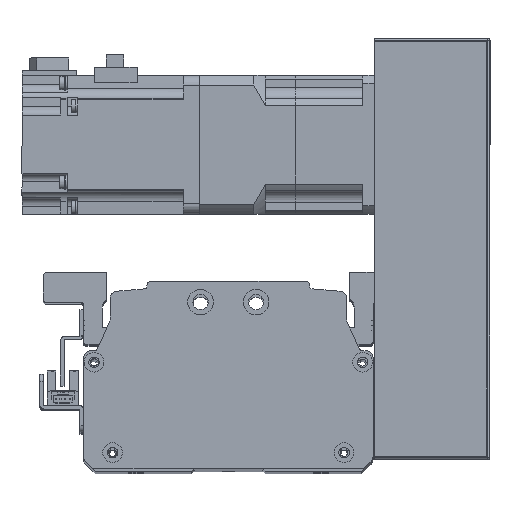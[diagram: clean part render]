
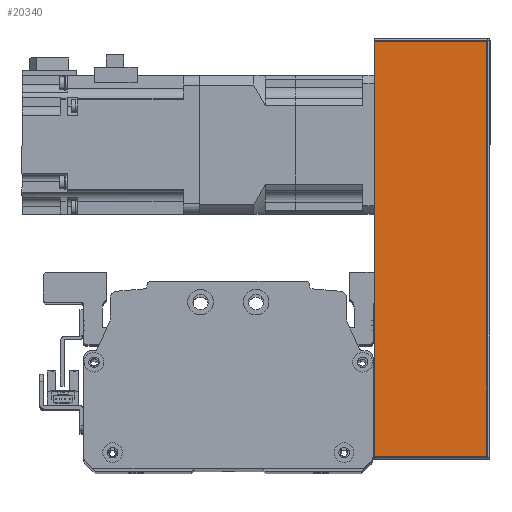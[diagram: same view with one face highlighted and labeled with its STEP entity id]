
A CAD part, top view. The second image highlights one B-rep face of the part: STEP entity #20340.
In plain terms, the highlighted planar face has unit normal (0, 0, 1) as drawn and (0, -1, 0) by its records, which use the part's own axes.
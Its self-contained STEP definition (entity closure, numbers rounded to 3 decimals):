
#563=PLANE('',#22303);
#1778=LINE('',#33132,#3402);
#1792=LINE('',#33184,#3416);
#1794=LINE('',#33192,#3418);
#1795=LINE('',#33194,#3419);
#3402=VECTOR('',#26905,10.);
#3416=VECTOR('',#26965,10.);
#3418=VECTOR('',#26979,10.);
#3419=VECTOR('',#26982,10.);
#5750=FACE_OUTER_BOUND('',#7174,.T.);
#7174=EDGE_LOOP('',(#16922,#16923,#16924,#16925));
#10010=VERTEX_POINT('',#33129);
#10011=VERTEX_POINT('',#33131);
#10025=VERTEX_POINT('',#33179);
#10026=VERTEX_POINT('',#33182);
#12438=EDGE_CURVE('',#10011,#10010,#1778,.T.);
#12466=EDGE_CURVE('',#10025,#10026,#1792,.T.);
#12470=EDGE_CURVE('',#10026,#10011,#1794,.T.);
#12471=EDGE_CURVE('',#10010,#10025,#1795,.T.);
#16922=ORIENTED_EDGE('',*,*,#12466,.T.);
#16923=ORIENTED_EDGE('',*,*,#12470,.T.);
#16924=ORIENTED_EDGE('',*,*,#12438,.T.);
#16925=ORIENTED_EDGE('',*,*,#12471,.T.);
#20340=ADVANCED_FACE('',(#5750),#563,.F.);
#22303=AXIS2_PLACEMENT_3D('',#33193,#26980,#26981);
#26905=DIRECTION('',(1.,0.,0.));
#26965=DIRECTION('',(-1.,0.,0.));
#26979=DIRECTION('',(0.,0.,-1.));
#26980=DIRECTION('center_axis',(0.,1.,0.));
#26981=DIRECTION('ref_axis',(1.,0.,0.));
#26982=DIRECTION('',(0.,0.,1.));
#33129=CARTESIAN_POINT('',(90.,-38.,-25.));
#33131=CARTESIAN_POINT('',(-90.,-38.,-25.));
#33132=CARTESIAN_POINT('',(91.,-38.,-25.));
#33179=CARTESIAN_POINT('',(90.,-38.,24.));
#33182=CARTESIAN_POINT('',(-90.,-38.,24.));
#33184=CARTESIAN_POINT('',(-45.5,-38.,24.));
#33192=CARTESIAN_POINT('',(-90.,-38.,0.));
#33193=CARTESIAN_POINT('Origin',(-91.,-38.,0.));
#33194=CARTESIAN_POINT('',(90.,-38.,0.));
